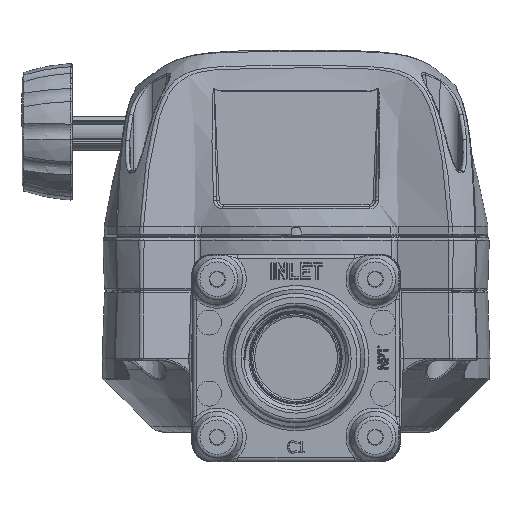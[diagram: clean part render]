
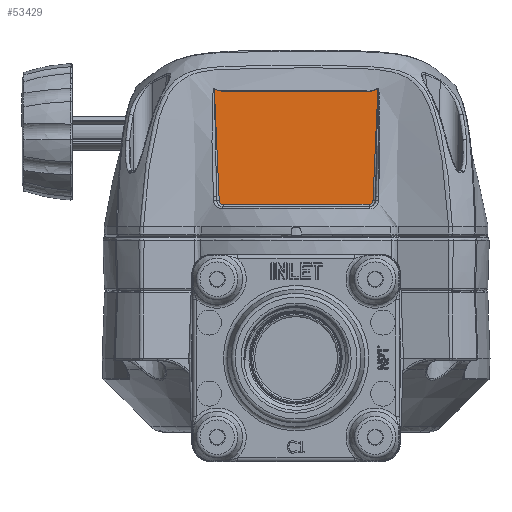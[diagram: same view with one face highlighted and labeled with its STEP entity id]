
A CAD part, front view. The second image highlights one B-rep face of the part: STEP entity #53429.
In plain terms, the highlighted planar face has unit normal (0, -0.999, 0.044).
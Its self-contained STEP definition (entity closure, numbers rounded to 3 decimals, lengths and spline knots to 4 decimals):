
#1706=ELLIPSE('',#58191,0.05,0.05);
#1708=ELLIPSE('',#58196,0.05,0.05);
#3166=B_SPLINE_CURVE_WITH_KNOTS('',3,(#161074,#161075,#161076,#161077,#161078,
#161079,#161080,#161081,#161082,#161083,#161084,#161085,#161086),
 .UNSPECIFIED.,.F.,.F.,(4,1,1,1,1,1,1,1,1,1,4),(0.,0.1892,0.3785,
0.7569,1.5138,3.0277,3.7846,4.5415,
4.9199,5.1092,5.2984),.UNSPECIFIED.);
#4725=PLANE('',#58237);
#6628=LINE('',#158828,#8896);
#6629=LINE('',#158860,#8897);
#6637=LINE('',#161087,#8905);
#8896=VECTOR('',#68311,0.3937);
#8897=VECTOR('',#68320,0.3937);
#8905=VECTOR('',#68416,0.3937);
#12365=FACE_OUTER_BOUND('',#15755,.T.);
#15755=EDGE_LOOP('',(#41660,#41661,#41662,#41663,#41664,#41665));
#22900=VERTEX_POINT('',#158798);
#22901=VERTEX_POINT('',#158826);
#22902=VERTEX_POINT('',#158854);
#22903=VERTEX_POINT('',#158858);
#22905=VERTEX_POINT('',#158888);
#22961=VERTEX_POINT('',#161073);
#29371=EDGE_CURVE('',#22901,#22900,#6628,.T.);
#29373=EDGE_CURVE('',#22902,#22901,#1706,.T.);
#29375=EDGE_CURVE('',#22903,#22902,#6629,.T.);
#29378=EDGE_CURVE('',#22905,#22903,#1708,.T.);
#29475=EDGE_CURVE('',#22900,#22961,#3166,.T.);
#29476=EDGE_CURVE('',#22961,#22905,#6637,.T.);
#41660=ORIENTED_EDGE('',*,*,#29475,.F.);
#41661=ORIENTED_EDGE('',*,*,#29371,.F.);
#41662=ORIENTED_EDGE('',*,*,#29373,.F.);
#41663=ORIENTED_EDGE('',*,*,#29375,.F.);
#41664=ORIENTED_EDGE('',*,*,#29378,.F.);
#41665=ORIENTED_EDGE('',*,*,#29476,.F.);
#53429=ADVANCED_FACE('',(#12365),#4725,.F.);
#58191=AXIS2_PLACEMENT_3D('',#158856,#68314,#68315);
#58196=AXIS2_PLACEMENT_3D('',#158890,#68325,#68326);
#58237=AXIS2_PLACEMENT_3D('',#161072,#68414,#68415);
#68311=DIRECTION('',(-0.044,0.044,0.998));
#68314=DIRECTION('center_axis',(0.,0.999,
-0.044));
#68315=DIRECTION('ref_axis',(0.,-0.044,-0.999));
#68320=DIRECTION('',(-1.,0.,0.));
#68325=DIRECTION('center_axis',(0.,0.999,
-0.044));
#68326=DIRECTION('ref_axis',(0.,-0.044,-0.999));
#68414=DIRECTION('center_axis',(0.,0.999,
-0.044));
#68415=DIRECTION('ref_axis',(-1.,0.,0.));
#68416=DIRECTION('',(-0.044,-0.044,-0.998));
#158798=CARTESIAN_POINT('',(-1.0354,-2.0347,3.4126));
#158826=CARTESIAN_POINT('',(-0.9734,-2.0967,1.993));
#158828=CARTESIAN_POINT('',(-0.9696,-2.1004,1.9069));
#158854=CARTESIAN_POINT('',(-0.9234,-2.0987,1.9452));
#158856=CARTESIAN_POINT('Origin',(-0.9234,-2.0966,
1.9952));
#158858=CARTESIAN_POINT('',(0.9234,-2.0987,1.9452));
#158860=CARTESIAN_POINT('',(-0.5,-2.0987,1.9452));
#158888=CARTESIAN_POINT('',(0.9734,-2.0967,1.993));
#158890=CARTESIAN_POINT('Origin',(0.9234,-2.0966,1.9952));
#161072=CARTESIAN_POINT('Origin',(-1.,-2.1,1.9165));
#161073=CARTESIAN_POINT('',(1.0354,-2.0347,3.4126));
#161074=CARTESIAN_POINT('Ctrl Pts',(-1.0354,-2.0347,
3.4126));
#161075=CARTESIAN_POINT('Ctrl Pts',(-1.0143,-2.0353,
3.3995));
#161076=CARTESIAN_POINT('Ctrl Pts',(-0.9672,-2.036,
3.3821));
#161077=CARTESIAN_POINT('Ctrl Pts',(-0.8685,-2.0366,
3.3688));
#161078=CARTESIAN_POINT('Ctrl Pts',(-0.6945,-2.0366,
3.3693));
#161079=CARTESIAN_POINT('Ctrl Pts',(-0.3471,-2.0358,
3.3859));
#161080=CARTESIAN_POINT('Ctrl Pts',(0.0496,-2.0356,
3.3911));
#161081=CARTESIAN_POINT('Ctrl Pts',(0.4476,-2.0361,
3.3809));
#161082=CARTESIAN_POINT('Ctrl Pts',(0.6946,-2.0366,
3.3694));
#161083=CARTESIAN_POINT('Ctrl Pts',(0.8686,-2.0366,
3.3688));
#161084=CARTESIAN_POINT('Ctrl Pts',(0.9671,-2.036,
3.382));
#161085=CARTESIAN_POINT('Ctrl Pts',(1.0143,-2.0353,
3.3995));
#161086=CARTESIAN_POINT('Ctrl Pts',(1.0354,-2.0347,3.4126));
#161087=CARTESIAN_POINT('',(0.9682,-2.1018,1.8743));
